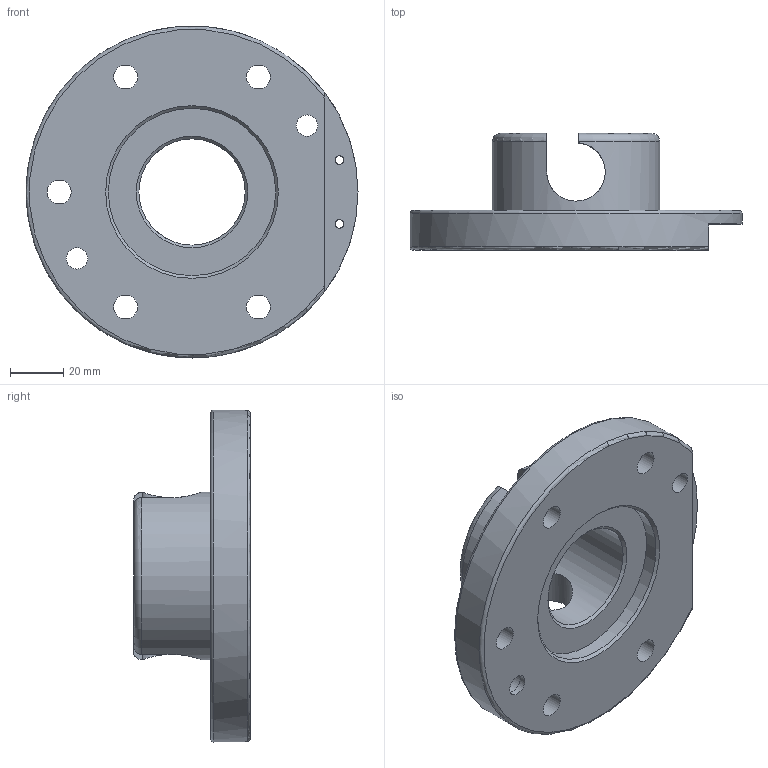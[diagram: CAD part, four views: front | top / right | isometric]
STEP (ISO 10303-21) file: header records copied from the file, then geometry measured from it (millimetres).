
FILE_DESCRIPTION((''),'2;1');
FILE_NAME('T:\CAD\Standard\Daten\3D-Datenbank\MGW\MGW125\step-Daten\G-MGW125-2UE.stp','2011-05-12T11:30:52',('Yvonne'),(''),'Autodesk Inventor 2011','Autodesk Inventor 2011','');
FILE_SCHEMA(('AUTOMOTIVE_DESIGN { 1 0 10303 214 1 1 1 1 }'));
Length unit declared in the file: millimetre
Products named in the file (1): G-MGW125-4
Bounding box: 125 x 44 x 125 mm (x, y, z)
Volume: 178478.7 mm3; surface area: 41265.8 mm2
Topology: 1 solids, 1 shells, 47 faces, 115 edges, 76 vertices
Faces by surface type: cylinder 21, plane 16, cone 6, torus 4
Full cylindrical faces by diameter (mm): 3.242 x2, 8 x2, 9 x5, 10.1 x1, 15 x5, 40 x1, 63 x2, 125 x1
Entity records: 1432 total; most frequent: CARTESIAN_POINT 379, DIRECTION 216, ORIENTED_EDGE 168, AXIS2_PLACEMENT_3D 98, EDGE_LOOP 97, EDGE_CURVE 84, VERTEX_POINT 69, CIRCLE 50
